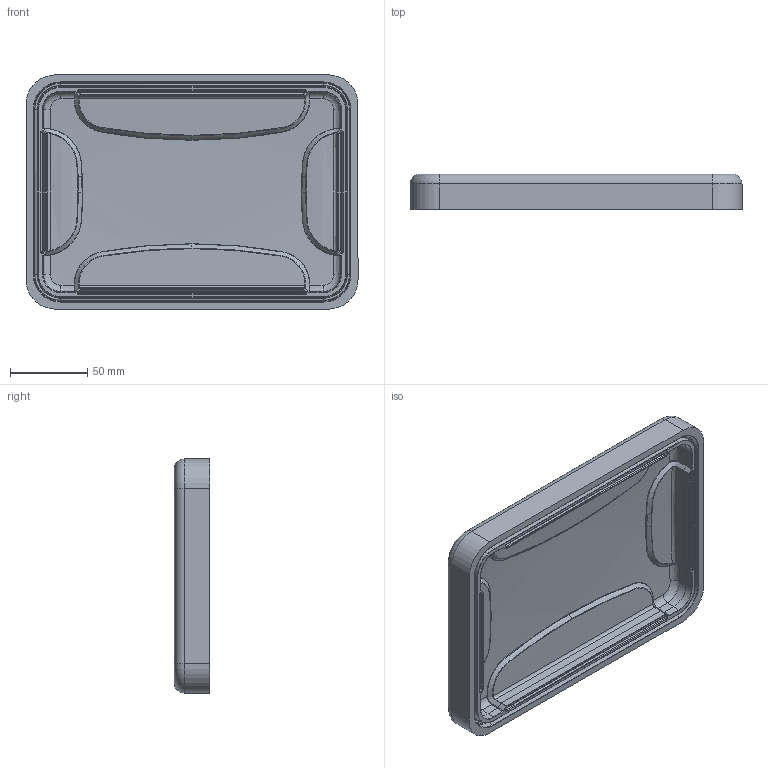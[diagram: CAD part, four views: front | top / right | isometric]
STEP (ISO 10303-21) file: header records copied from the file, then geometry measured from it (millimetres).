
FILE_DESCRIPTION (( 'STEP AP203' ), '1' );
FILE_NAME ('NANUK_903_Top_INNER SURFS.STEP', '2015-04-16T19:18:25', ( 'Ben laptop' ), ( 'Microsoft' ), 'SwSTEP 2.0', 'SolidWorks 2014', '' );
FILE_SCHEMA (( 'CONFIG_CONTROL_DESIGN' ));
Length unit declared in the file: inch
Products named in the file (1): NANUK_903_Top_INNER SURFS
Bounding box: 215.17 x 22.86 x 151.8 mm (x, y, z)
Volume: 367098.5 mm3; surface area: 99296.2 mm2
Topology: 1 solids, 1 shells, 757 faces, 1919 edges, 1208 vertices
Faces by surface type: bspline 378, plane 252, cylinder 103, torus 12, cone 12
Entity records: 75738 total; most frequent: CARTESIAN_POINT 60277, ORIENTED_EDGE 3838, DIRECTION 2129, EDGE_CURVE 1919, VERTEX_POINT 1208, LINE 877, VECTOR 877, EDGE_LOOP 801
